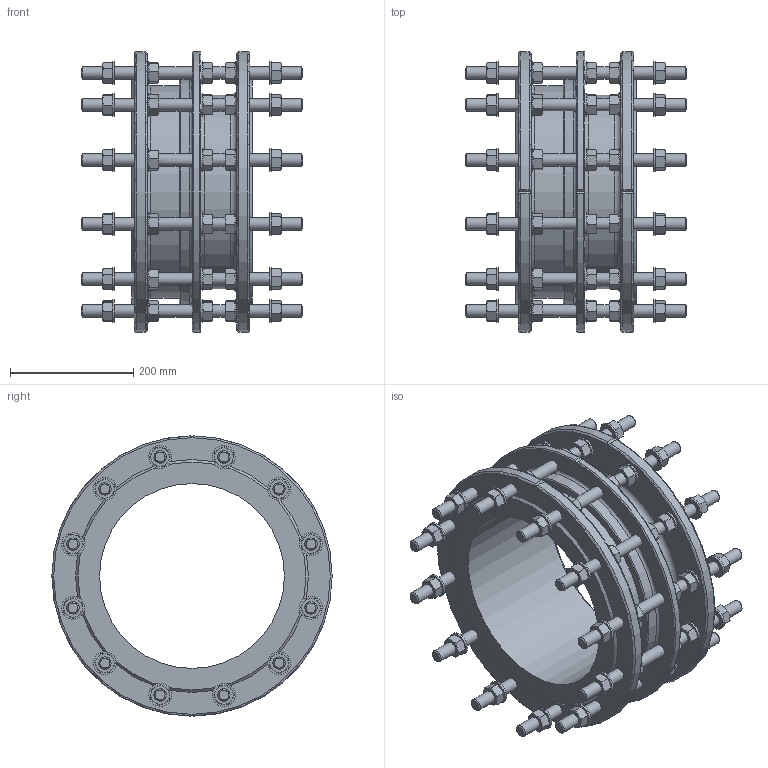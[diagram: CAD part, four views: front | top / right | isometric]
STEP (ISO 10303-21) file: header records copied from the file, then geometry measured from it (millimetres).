
FILE_DESCRIPTION (( 'STEP AP203' ), '1' );
FILE_NAME ('O_265_911_DN300_0XXXXX01_L=195_REV01.step', '2024-12-12T07:58:11', ( '' ), ( '' ), 'SwSTEP 2.0', 'SolidWorks 2022', '' );
FILE_SCHEMA (( 'CONFIG_CONTROL_DESIGN' ));
Length unit declared in the file: millimetre
Products named in the file (1): O_265_911_DN300_0XXXXX01_L=195_REV01
Bounding box: 360 x 455 x 454.96 mm (x, y, z)
Volume: 9575564.2 mm3; surface area: 1174733.1 mm2
Topology: 1 solids, 1 shells, 1498 faces, 3328 edges, 1999 vertices
Faces by surface type: cone 748, plane 592, cylinder 144, torus 14
Full cylindrical faces by diameter (mm): 20 x72, 37 x60, 300 x1, 315 x2, 345 x1
Entity records: 45912 total; most frequent: CARTESIAN_POINT 16304, ORIENTED_EDGE 6088, DIRECTION 5633, EDGE_CURVE 3044, AXIS2_PLACEMENT_3D 2566, VERTEX_POINT 1885, EDGE_LOOP 1885, FACE_OUTER_BOUND 1640
